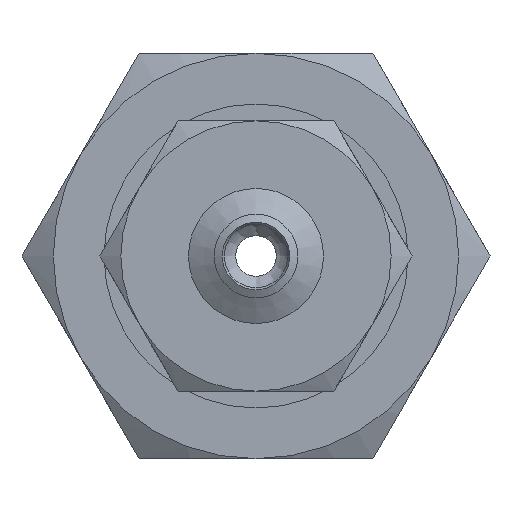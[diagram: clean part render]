
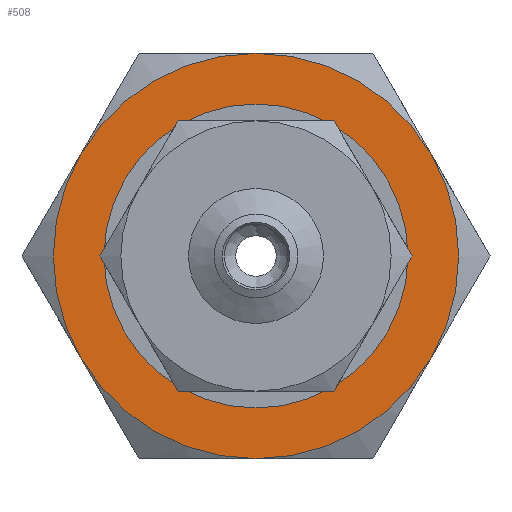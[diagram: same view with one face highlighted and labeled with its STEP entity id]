
A CAD part, front view. The second image highlights one B-rep face of the part: STEP entity #508.
In plain terms, the highlighted planar face has unit normal (0, -1, 0) as drawn and (-1, 0, 0) by its records, which use the part's own axes.
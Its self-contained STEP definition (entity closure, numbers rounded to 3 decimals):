
#508=ADVANCED_FACE('',(#726,#727),#728,.F.);
#726=FACE_BOUND('',#1091,.T.);
#727=FACE_OUTER_BOUND('',#1092,.T.);
#728=PLANE('',#1093);
#1091=EDGE_LOOP('',(#1948));
#1092=EDGE_LOOP('',(#1949,#1950,#1951,#1952,#1953,#1954));
#1093=AXIS2_PLACEMENT_3D('',#1955,#1956,#1957);
#1948=ORIENTED_EDGE('',*,*,#2649,.T.);
#1949=ORIENTED_EDGE('',*,*,#2624,.F.);
#1950=ORIENTED_EDGE('',*,*,#2642,.F.);
#1951=ORIENTED_EDGE('',*,*,#2650,.F.);
#1952=ORIENTED_EDGE('',*,*,#2647,.F.);
#1953=ORIENTED_EDGE('',*,*,#2651,.F.);
#1954=ORIENTED_EDGE('',*,*,#2652,.F.);
#1955=CARTESIAN_POINT('',(0.,0.0,0.0));
#1956=DIRECTION('',(1.0,0.0,0.0));
#1957=DIRECTION('',(0.0,1.0,0.0));
#2624=EDGE_CURVE('',#2946,#2948,#2949,.T.);
#2642=EDGE_CURVE('',#2981,#2946,#2982,.T.);
#2647=EDGE_CURVE('',#2989,#2978,#2990,.T.);
#2649=EDGE_CURVE('',#2992,#2992,#2993,.T.);
#2650=EDGE_CURVE('',#2978,#2981,#2994,.T.);
#2651=EDGE_CURVE('',#2995,#2989,#2996,.T.);
#2652=EDGE_CURVE('',#2948,#2995,#2997,.T.);
#2946=VERTEX_POINT('',#3480);
#2948=VERTEX_POINT('',#3492);
#2949=CIRCLE('',#3493,6.0);
#2978=VERTEX_POINT('',#3616);
#2981=VERTEX_POINT('',#3639);
#2982=CIRCLE('',#3640,6.0);
#2989=VERTEX_POINT('',#3677);
#2990=CIRCLE('',#3678,6.0);
#2992=VERTEX_POINT('',#3690);
#2993=CIRCLE('',#3691,4.0);
#2994=CIRCLE('',#3692,6.0);
#2995=VERTEX_POINT('',#3693);
#2996=CIRCLE('',#3694,6.0);
#2997=CIRCLE('',#3695,6.0);
#3480=CARTESIAN_POINT('',(0.,5.196,-3.0));
#3492=CARTESIAN_POINT('',(0.,5.196,3.0));
#3493=AXIS2_PLACEMENT_3D('',#4422,#4423,#4424);
#3616=CARTESIAN_POINT('',(0.,-5.196,-3.0));
#3639=CARTESIAN_POINT('',(0.,0.0,-6.0));
#3640=AXIS2_PLACEMENT_3D('',#4435,#4436,#4437);
#3677=CARTESIAN_POINT('',(0.,-5.196,3.0));
#3678=AXIS2_PLACEMENT_3D('',#4441,#4442,#4443);
#3690=CARTESIAN_POINT('',(0.,0.0,-4.0));
#3691=AXIS2_PLACEMENT_3D('',#4444,#4445,#4446);
#3692=AXIS2_PLACEMENT_3D('',#4447,#4448,#4449);
#3693=CARTESIAN_POINT('',(0.,0.0,6.0));
#3694=AXIS2_PLACEMENT_3D('',#4450,#4451,#4452);
#3695=AXIS2_PLACEMENT_3D('',#4453,#4454,#4455);
#4422=CARTESIAN_POINT('',(0.,0.0,0.0));
#4423=DIRECTION('',(1.0,0.0,0.0));
#4424=DIRECTION('',(0.0,0.0,-1.0));
#4435=CARTESIAN_POINT('',(0.,0.0,0.0));
#4436=DIRECTION('',(1.0,0.0,0.0));
#4437=DIRECTION('',(0.0,0.0,-1.0));
#4441=CARTESIAN_POINT('',(0.,0.0,0.0));
#4442=DIRECTION('',(1.0,0.0,0.0));
#4443=DIRECTION('',(0.0,0.0,-1.0));
#4444=CARTESIAN_POINT('',(0.,0.0,0.0));
#4445=DIRECTION('',(1.0,0.0,0.0));
#4446=DIRECTION('',(0.0,0.0,-1.0));
#4447=CARTESIAN_POINT('',(0.,0.0,0.0));
#4448=DIRECTION('',(1.0,0.0,0.0));
#4449=DIRECTION('',(0.0,0.0,-1.0));
#4450=CARTESIAN_POINT('',(0.,0.0,0.0));
#4451=DIRECTION('',(1.0,0.0,0.0));
#4452=DIRECTION('',(0.0,0.0,-1.0));
#4453=CARTESIAN_POINT('',(0.,0.0,0.0));
#4454=DIRECTION('',(1.0,0.0,0.0));
#4455=DIRECTION('',(0.0,0.0,-1.0));
